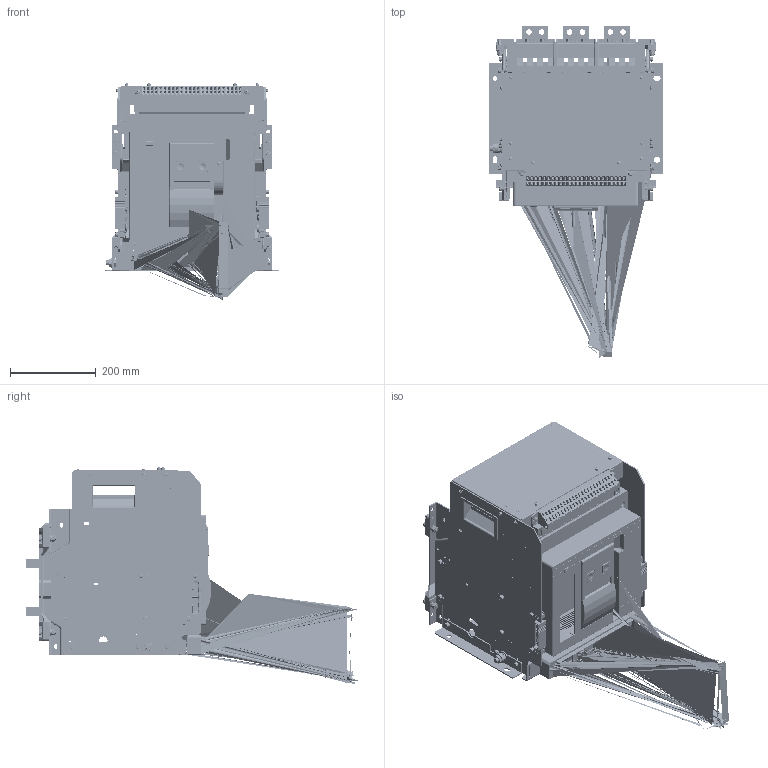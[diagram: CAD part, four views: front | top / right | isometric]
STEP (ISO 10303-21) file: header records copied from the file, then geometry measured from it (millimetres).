
FILE_DESCRIPTION (( 'STEP AP203' ), '1' );
FILE_NAME ('ACB MGW3-2000-3P 3D Drawing.STEP', '2024-06-17T14:54:27', ( '' ), ( '' ), 'SwSTEP 2.0', 'SolidWorks 2022', '' );
FILE_SCHEMA (( 'CONFIG_CONTROL_DESIGN' ));
Length unit declared in the file: millimetre
Products named in the file (318): ACB MGW3-2000-3P 3D Drawing.sldasm-Part-48; ACB MGW3-2000-3P 3D Drawing.sldasm-Part-195; ACB MGW3-2000-3P 3D Drawing.sldasm-Part-147; ACB MGW3-2000-3P 3D Drawing.sldasm-Part-100; ACB MGW3-2000-3P 3D Drawing.sldasm-Part-107; ACB MGW3-2000-3P 3D Drawing.sldasm-Part-98; ACB MGW3-2000-3P 3D Drawing.sldasm-Part-8; ACB MGW3-2000-3P 3D Drawing.sldasm-Part-134; ACB MGW3-2000-3P 3D Drawing.sldasm-Part-281; ACB MGW3-2000-3P 3D Drawing.sldasm-Part-46; ACB MGW3-2000-3P 3D Drawing.sldasm-Part-273; ACB MGW3-2000-3P 3D Drawing.sldasm-Part-247; ACB MGW3-2000-3P 3D Drawing.sldasm-Part-126; ACB MGW3-2000-3P 3D Drawing.sldasm-Part-75; ACB MGW3-2000-3P 3D Drawing.sldasm-Part-237; ACB MGW3-2000-3P 3D Drawing.sldasm-Part-176; ACB MGW3-2000-3P 3D Drawing.sldasm-Part-277; ACB MGW3-2000-3P 3D Drawing.sldasm-Part-289; ACB MGW3-2000-3P 3D Drawing.sldasm-Part-269; ACB MGW3-2000-3P 3D Drawing.sldasm-Part-284; ACB MGW3-2000-3P 3D Drawing.sldasm-Part-144; ACB MGW3-2000-3P 3D Drawing.sldasm-Part-173; ACB MGW3-2000-3P 3D Drawing.sldasm-Part-286; ACB MGW3-2000-3P 3D Drawing.sldasm-Part-201; ACB MGW3-2000-3P 3D Drawing.sldasm-Part-313; ACB MGW3-2000-3P 3D Drawing.sldasm-Part-153; ACB MGW3-2000-3P 3D Drawing.sldasm-Part-258; ACB MGW3-2000-3P 3D Drawing.sldasm-Part-250; ACB MGW3-2000-3P 3D Drawing.sldasm-Part-65; ACB MGW3-2000-3P 3D Drawing.sldasm-Part-215; ACB MGW3-2000-3P 3D Drawing.sldasm-Part-293; ACB MGW3-2000-3P 3D Drawing.sldasm-Part-207; ACB MGW3-2000-3P 3D Drawing.sldasm-Part-218; ACB MGW3-2000-3P 3D Drawing.sldasm-Part-51; ACB MGW3-2000-3P 3D Drawing.sldasm-Part-17; ACB MGW3-2000-3P 3D Drawing.sldasm-Part-179; ACB MGW3-2000-3P 3D Drawing.sldasm-Part-280; ACB MGW3-2000-3P 3D Drawing.sldasm-Part-235; ACB MGW3-2000-3P 3D Drawing.sldasm-Part-230; ACB MGW3-2000-3P 3D Drawing.sldasm-Part-249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
Assembly tree (317 placements, depth 2):
  ACB MGW3-2000-3P 3D Drawing
    ACB MGW3-2000-3P 3D Drawing.sldasm-Part-1
    ACB MGW3-2000-3P 3D Drawing.sldasm-Part-2
    ACB MGW3-2000-3P 3D Drawing.sldasm-Part-3
    ACB MGW3-2000-3P 3D Drawing.sldasm-Part-4
    ACB MGW3-2000-3P 3D Drawing.sldasm-Part-5
    ACB MGW3-2000-3P 3D Drawing.sldasm-Part-6
    ACB MGW3-2000-3P 3D Drawing.sldasm-Part-7
    ACB MGW3-2000-3P 3D Drawing.sldasm-Part-8
    ACB MGW3-2000-3P 3D Drawing.sldasm-Part-9
    ACB MGW3-2000-3P 3D Drawing.sldasm-Part-10
    ACB MGW3-2000-3P 3D Drawing.sldasm-Part-11
    ACB MGW3-2000-3P 3D Drawing.sldasm-Part-12
    ACB MGW3-2000-3P 3D Drawing.sldasm-Part-13
    ACB MGW3-2000-3P 3D Drawing.sldasm-Part-14
    ACB MGW3-2000-3P 3D Drawing.sldasm-Part-15
    ACB MGW3-2000-3P 3D Drawing.sldasm-Part-16
    ACB MGW3-2000-3P 3D Drawing.sldasm-Part-17
    ACB MGW3-2000-3P 3D Drawing.sldasm-Part-18
    ACB MGW3-2000-3P 3D Drawing.sldasm-Part-19
    ACB MGW3-2000-3P 3D Drawing.sldasm-Part-20
    ACB MGW3-2000-3P 3D Drawing.sldasm-Part-21
    ACB MGW3-2000-3P 3D Drawing.sldasm-Part-22
    ACB MGW3-2000-3P 3D Drawing.sldasm-Part-23
    ACB MGW3-2000-3P 3D Drawing.sldasm-Part-24
    ACB MGW3-2000-3P 3D Drawing.sldasm-Part-25
    ACB MGW3-2000-3P 3D Drawing.sldasm-Part-26
    ACB MGW3-2000-3P 3D Drawing.sldasm-Part-27
    ACB MGW3-2000-3P 3D Drawing.sldasm-Part-28
    ACB MGW3-2000-3P 3D Drawing.sldasm-Part-29
    ACB MGW3-2000-3P 3D Drawing.sldasm-Part-30
    ACB MGW3-2000-3P 3D Drawing.sldasm-Part-31
    ACB MGW3-2000-3P 3D Drawing.sldasm-Part-32
    ACB MGW3-2000-3P 3D Drawing.sldasm-Part-33
    ACB MGW3-2000-3P 3D Drawing.sldasm-Part-34
    ACB MGW3-2000-3P 3D Drawing.sldasm-Part-35
    ACB MGW3-2000-3P 3D Drawing.sldasm-Part-36
    ACB MGW3-2000-3P 3D Drawing.sldasm-Part-37
    ACB MGW3-2000-3P 3D Drawing.sldasm-Part-38
    ACB MGW3-2000-3P 3D Drawing.sldasm-Part-39
    ACB MGW3-2000-3P 3D Drawing.sldasm-Part-40
    ACB MGW3-2000-3P 3D Drawing.sldasm-Part-41
    ACB MGW3-2000-3P 3D Drawing.sldasm-Part-42
    ACB MGW3-2000-3P 3D Drawing.sldasm-Part-43
    ACB MGW3-2000-3P 3D Drawing.sldasm-Part-44
    ACB MGW3-2000-3P 3D Drawing.sldasm-Part-45
    ACB MGW3-2000-3P 3D Drawing.sldasm-Part-46
    ACB MGW3-2000-3P 3D Drawing.sldasm-Part-47
    ACB MGW3-2000-3P 3D Drawing.sldasm-Part-48
    ACB MGW3-2000-3P 3D Drawing.sldasm-Part-49
    ACB MGW3-2000-3P 3D Drawing.sldasm-Part-50
    ACB MGW3-2000-3P 3D Drawing.sldasm-Part-51
    ACB MGW3-2000-3P 3D Drawing.sldasm-Part-52
    ACB MGW3-2000-3P 3D Drawing.sldasm-Part-53
    ACB MGW3-2000-3P 3D Drawing.sldasm-Part-54
    ACB MGW3-2000-3P 3D Drawing.sldasm-Part-55
    ACB MGW3-2000-3P 3D Drawing.sldasm-Part-56
    ACB MGW3-2000-3P 3D Drawing.sldasm-Part-57
    ACB MGW3-2000-3P 3D Drawing.sldasm-Part-58
    ACB MGW3-2000-3P 3D Drawing.sldasm-Part-59
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Bounding box: 406 x 774.09 x 507.1 mm (x, y, z)
Volume: 14834461.5 mm3; surface area: 4017728.7 mm2
Topology: 316 solids, 353 shells, 36254 faces, 98142 edges, 62977 vertices
Faces by surface type: plane 22466, cylinder 9284, torus 1685, cone 1371, bspline 835, sphere 613
Entity records: 1190141 total; most frequent: CARTESIAN_POINT 241999, ORIENTED_EDGE 194636, DIRECTION 185127, EDGE_CURVE 97318, LINE 69777, VECTOR 69777, VERTEX_POINT 62650, AXIS2_PLACEMENT_3D 57675
